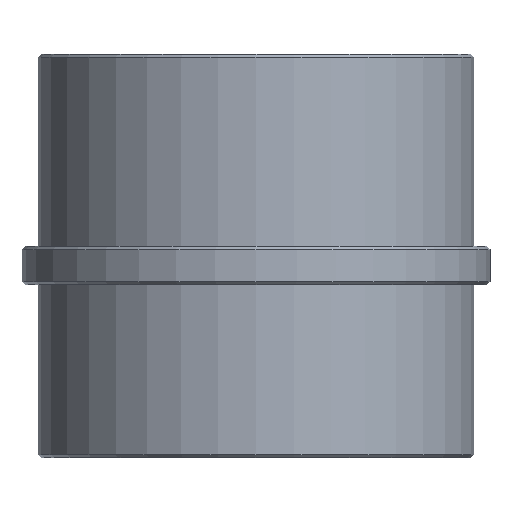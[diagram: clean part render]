
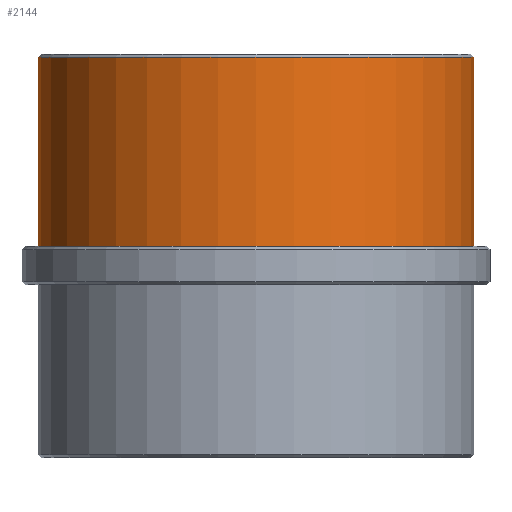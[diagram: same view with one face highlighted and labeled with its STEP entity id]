
A CAD part, front view. The second image highlights one B-rep face of the part: STEP entity #2144.
In plain terms, the highlighted cylindrical face has radius 34 mm (diameter 68 mm), a partial arc.
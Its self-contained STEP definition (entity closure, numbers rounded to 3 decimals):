
#929=CARTESIAN_POINT('',(0.,0.,35.5));
#930=DIRECTION('',(0.,0.,-1.));
#931=DIRECTION('',(1.,0.,0.));
#932=AXIS2_PLACEMENT_3D('',#929,#930,#931);
#934=DIRECTION('',(0.,0.,-1.));
#935=VECTOR('',#934,29.5);
#936=CARTESIAN_POINT('',(34.,0.,
35.5));
#937=LINE('',#936,#935);
#938=DIRECTION('',(0.,0.,-1.));
#939=VECTOR('',#938,29.5);
#940=CARTESIAN_POINT('',(-34.,0.,
35.5));
#941=LINE('',#940,#939);
#951=CARTESIAN_POINT('',(0.,0.,6.));
#952=DIRECTION('',(0.,0.,-1.));
#953=DIRECTION('',(1.,0.,0.));
#954=AXIS2_PLACEMENT_3D('',#951,#952,#953);
#1143=CARTESIAN_POINT('',(34.,0.,6.));
#1144=CARTESIAN_POINT('',(-34.,0.,6.));
#1145=VERTEX_POINT('',#1143);
#1146=VERTEX_POINT('',#1144);
#1179=CARTESIAN_POINT('',(34.,0.,35.5));
#1180=CARTESIAN_POINT('',(-34.,0.,35.5));
#1181=VERTEX_POINT('',#1179);
#1182=VERTEX_POINT('',#1180);
#2130=CARTESIAN_POINT('',(0.,0.,-30.15));
#2131=DIRECTION('',(0.,0.,1.));
#2132=DIRECTION('',(-1.,0.,0.));
#2133=AXIS2_PLACEMENT_3D('',#2130,#2131,#2132);
#2134=CYLINDRICAL_SURFACE('',#2133,34.);
#2135=ORIENTED_EDGE('',*,*,#2120,.F.);
#2137=ORIENTED_EDGE('',*,*,#2136,.T.);
#2139=ORIENTED_EDGE('',*,*,#2138,.T.);
#2141=ORIENTED_EDGE('',*,*,#2140,.F.);
#2142=EDGE_LOOP('',(#2135,#2137,#2139,#2141));
#2143=FACE_OUTER_BOUND('',#2142,.F.);
#2144=ADVANCED_FACE('',(#2143),#2134,.T.);
#933=CIRCLE('',#932,34.);
#955=CIRCLE('',#954,34.);
#2120=EDGE_CURVE('',#1181,#1182,#933,.T.);
#2136=EDGE_CURVE('',#1181,#1145,#937,.T.);
#2138=EDGE_CURVE('',#1145,#1146,#955,.T.);
#2140=EDGE_CURVE('',#1182,#1146,#941,.T.);
